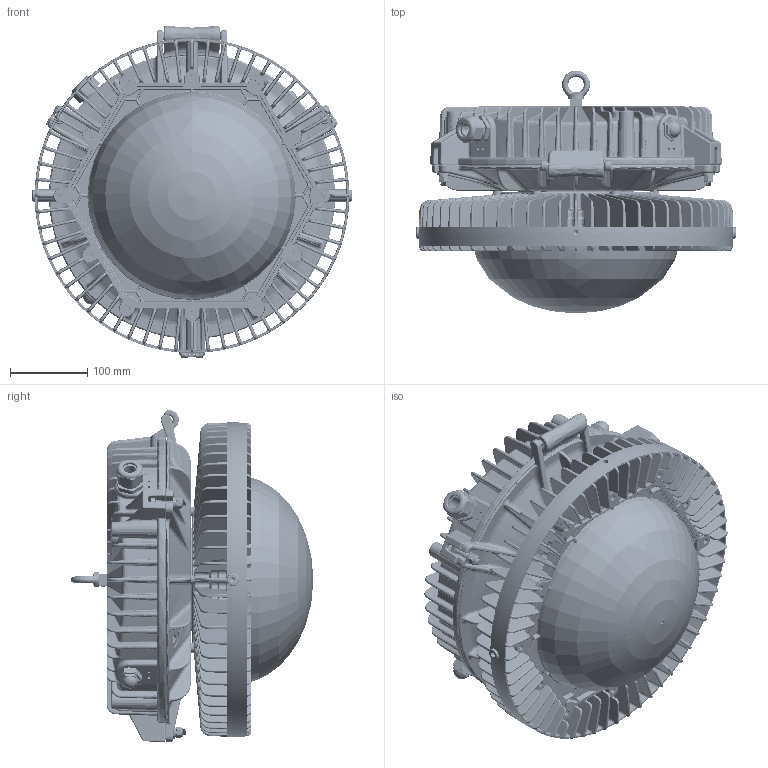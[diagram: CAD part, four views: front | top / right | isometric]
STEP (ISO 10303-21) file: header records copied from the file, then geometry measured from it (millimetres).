
FILE_DESCRIPTION((''),'2;1');
FILE_NAME('EHBBX_ASM','2023-10-23T11:40:24',('NSharma'),(''),'CREO PARAMETRIC BY PTC INC, 2021304','CREO PARAMETRIC BY PTC INC, 2021304','');
FILE_SCHEMA(('CONFIG_CONTROL_DESIGN'));
Products named in the file (27): 3998EHB000105; 3098HIB000807_AF0; 8800EHB300100_ASM; 3998HIB000807; 3867T67_HIGH-PRESSURE_ALUMINUM__AF0; 3900657000207_AF0; 8800657140200_AF0; 8800657140X00; 880065714XX00_AF0_ASM; 3900HIB002300; EPSS211C_INDICATOR_PLUG_ASM; 6298OBS100075; 6000HIB009400; 6000HBA0007EX; 8800HIB007699_ASM; 6200860000103; 93635A336_316_STAINLESS_STEEL_H; 8300HZA000100; 8100HZA000300; 4900HZA000100; 4798LWB000300; 4700HIB0012EX; HSK_K_1_209_3400_71_GLAND; HSK_K_1_209_3400_71S; HSK_K_1_209_3400_71_NUT; 1900HIB001000_ASM; EHBBX_ASM
Assembly tree (36 placements, depth 4):
  EHBBX_ASM
    3998EHB000105
    8800EHB300100_ASM
      3098HIB000807_AF0
    3998HIB000807
    EPSS211C_INDICATOR_PLUG_ASM  x2
      3867T67_HIGH-PRESSURE_ALUMINUM__AF0
      3900657000207_AF0
      880065714XX00_AF0_ASM
        8800657140200_AF0
        8800657140X00
      3900HIB002300
    8800HIB007699_ASM
      6298OBS100075
      6000HIB009400
      6000HBA0007EX
    6200860000103  x2
    93635A336_316_STAINLESS_STEEL_H  x3
    8300HZA000100  x3
    8100HZA000300  x3
    4900HZA000100  x3
    4798LWB000300
    4700HIB0012EX
    1900HIB001000_ASM
      HSK_K_1_209_3400_71_GLAND
      HSK_K_1_209_3400_71S
      HSK_K_1_209_3400_71_NUT
Bounding box: 412.75 x 313.33 x 428.81 mm (x, y, z)
Volume: 4645246.8 mm3; surface area: 2160310.6 mm2
Topology: 38 solids, 87 shells, 22778 faces, 57532 edges, 35240 vertices
Faces by surface type: plane 8838, bspline 6115, cylinder 4292, cone 1275, extrusion 1186, torus 795, sphere 273, revolution 4
Entity records: 888354 total; most frequent: CARTESIAN_POINT 500314, ORIENTED_EDGE 91035, DIRECTION 65171, EDGE_CURVE 45609, VERTEX_POINT 27470, AXIS2_PLACEMENT_3D 22553, VECTOR 20061, LINE 19456
